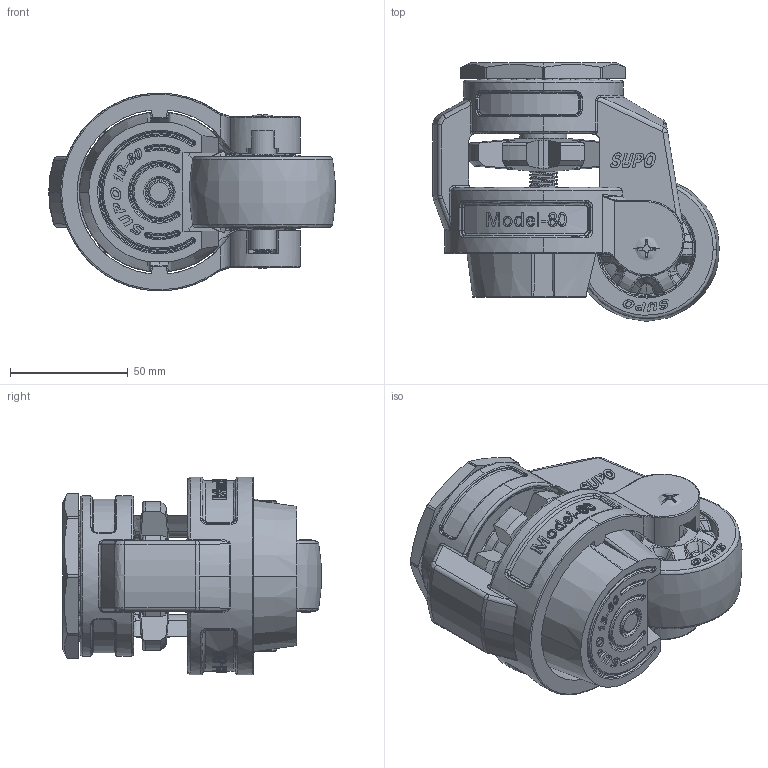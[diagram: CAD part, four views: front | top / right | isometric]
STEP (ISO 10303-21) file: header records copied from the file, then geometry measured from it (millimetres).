
FILE_DESCRIPTION (( 'STEP AP214' ), '1' );
FILE_NAME ('HT13-03-80S-643.STEP', '2025-10-01T09:45:22', ( '' ), ( '' ), 'SwSTEP 2.0', 'SolidWorks 2022', '' );
FILE_SCHEMA (( 'AUTOMOTIVE_DESIGN' ));
Length unit declared in the file: millimetre
Products named in the file (1): HT13-03-80S-643
Bounding box: 121.66 x 109.86 x 84 mm (x, y, z)
Surface area: 124959.1 mm2 (no closed solid volume)
Topology: 0 solids, 47 shells, 2782 faces, 7636 edges, 4918 vertices
Faces by surface type: bspline 1261, plane 1040, cylinder 369, cone 112
Entity records: 154289 total; most frequent: CARTESIAN_POINT 63535, ORIENTED_EDGE 14962, DIRECTION 8355, EDGE_CURVE 7483, VERTEX_POINT 4918, LINE 3557, VECTOR 3557, EDGE_LOOP 2928
